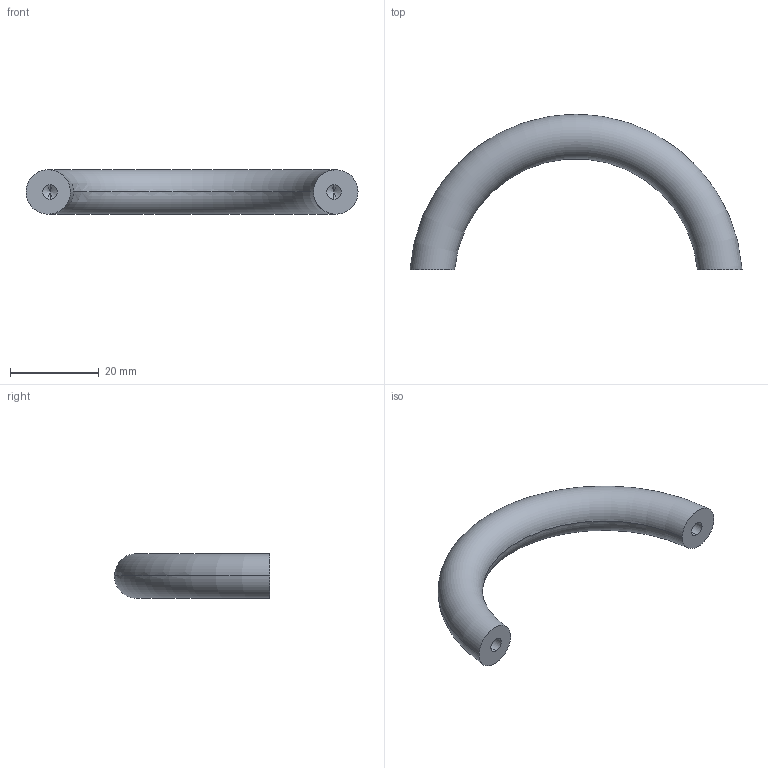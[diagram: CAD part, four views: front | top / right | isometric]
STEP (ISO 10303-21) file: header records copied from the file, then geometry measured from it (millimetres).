
FILE_DESCRIPTION (( 'STEP AP214' ), '1' );
FILE_NAME ('424.1-10-64-SR.step', '2020-02-13T13:54:03', ( '' ), ( '' ), 'SwSTEP 2.0', 'SolidWorks 2019', '' );
FILE_SCHEMA (( 'AUTOMOTIVE_DESIGN' ));
Length unit declared in the file: millimetre
Products named in the file (1): 424.1-10-64-SR
Bounding box: 74.83 x 35 x 10 mm (x, y, z)
Volume: 7492.2 mm3; surface area: 3366.3 mm2
Topology: 1 solids, 1 shells, 12 faces, 26 edges, 14 vertices
Faces by surface type: cylinder 4, cone 4, torus 2, plane 2
Entity records: 514 total; most frequent: CARTESIAN_POINT 193, DIRECTION 54, ORIENTED_EDGE 44, AXIS2_PLACEMENT_3D 23, EDGE_CURVE 22, VERTEX_POINT 14, EDGE_LOOP 14, ADVANCED_FACE 12
